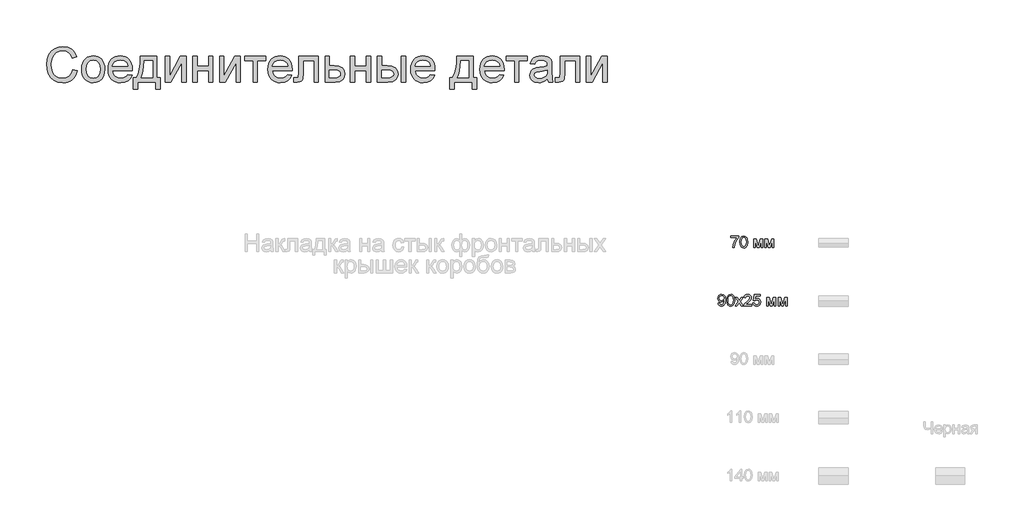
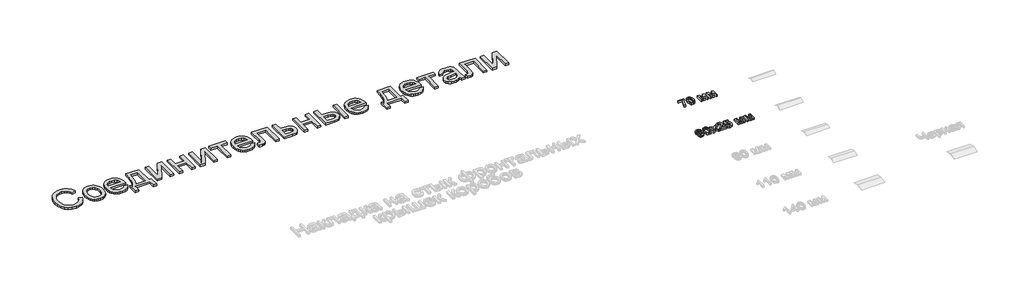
# One storey, part 34 of 48: 3 proxies.
"""IFC4 building model written with IfcOpenShell, lengths in millimetres."""

from ifc_helpers import new_model, si_unit, origin, origin_with_axes, place, context, project, spatial, polyline, outline, extrude, element, save

model = new_model("IFC4")

# Units and contexts
model_context = context("Model", 3, world=origin())
ifc_project = project(units=[si_unit("LENGTHUNIT", "METRE", prefix="MILLI")], contexts=[model_context])

# Site, building, storey
site = spatial("IfcSite", under=ifc_project)
building = spatial("IfcBuilding", under=site)
storey = spatial("IfcBuildingStorey", under=building, Name="Этаж 01", Elevation=0.0)

# Proxies
placement = place(None, origin())
element("IfcBuildingElementProxy", 1, Name="300 мм Arial", ObjectType="300 мм Arial", at=placement, inside=storey, context=model_context, shape_type="SweptSolid", body=[
    extrude(outline(polyline([(6640.9820973, 6004.9853541), (6678.6532136, 5995.2732694), (6671.1990047, 5971.8460841), (6661.2707893, 5951.3757503), (6648.8685676, 5933.8622681), (6633.9923394, 5919.3056374), (6616.9777971, 5907.8622081), (6598.1606331, 5899.68833), (6577.5408472, 5894.7840032), (6555.1184396, 5893.1492275), (6511.4232557, 5898.0972404), (6476.7227865, 5912.9412789), (6450.1249182, 5937.1663083), (6430.7375371, 5970.2572937), (6418.9009339, 6009.1608147), (6414.9553995, 6050.8234507), (6419.4159687, 6094.766955), (6432.7976762, 6132.7139828), (6454.4015464, 6163.4597205), (6483.5286034, 6185.7993547), (6518.0727227, 6199.4017915), (6555.92778, 6203.9359371), (6597.231731, 6198.0682192), (6615.2004672, 6190.733572), (6631.3803772, 6180.4650658), (6645.5047466, 6167.5340136), (6657.3068608, 6152.2117285), (6673.9443241, 6114.3934594), (6636.2732078, 6105.4171388), (6623.2133969, 6132.8887267), (6605.3711202, 6151.7334819), (6582.5256483, 6162.6319861), (6554.456252, 6166.2648208), (6522.1010306, 6162.2365129), (6495.5215564, 6150.1515894), (6475.352426, 6131.279243), (6462.2282358, 6106.8886667), (6455.0269458, 6079.3159112), (6452.6265158, 6050.8970271), (6455.4684042, 6016.0953903), (6463.9940694, 5986.0026431), (6478.5254082, 5961.7684167), (6499.3843174, 5944.5423423), (6524.391096, 5934.2508434), (6551.3660433, 5930.8203438), (6582.8107568, 5935.4924452), (6609.0131519, 5949.5087492), (6628.7960062, 5972.7221031), (6640.9820973, 6004.9853541)])), origin_with_axes(), (0.0, 0.0, 1.0), 20.0),
    extrude(outline(polyline([(6716.3243299, 6008.5170212), (6718.3614765, 6037.1796272), (6724.4729161, 6061.8783046), (6734.6586488, 6082.6130536), (6748.9186747, 6099.383874), (6763.2752695, 6110.1030357), (6779.1217865, 6117.7595797), (6796.4582255, 6122.3535061), (6815.2845866, 6123.8848149), (6836.0676201, 6122.020113), (6854.8594922, 6116.4260075), (6871.6602031, 6107.1024981), (6886.4697527, 6094.0495851), (6898.5569755, 6077.7087267), (6907.1907061, 6058.5213814), (6912.3709444, 6036.4875492), (6914.0976905, 6011.60723), (6911.04427, 5973.5498376), (6901.8840083, 5944.5791305), (6886.8836199, 5922.8832898), (6866.3098193, 5906.6504968), (6841.8732578, 5896.5245448), (6815.2845866, 5893.1492275), (6794.1980505, 5895.0070316), (6775.2314344, 5900.5804438), (6758.3847383, 5909.8694642), (6743.6579622, 5922.8740927), (6731.6994981, 5939.3736002), (6723.157738, 5959.1472575), (6718.0326819, 5982.1950645), (6716.3243299, 6008.5170212)]), holes=[polyline([(6753.9954462, 6008.5905976), (6758.3548479, 5974.4971337), (6771.4330528, 5950.207725), (6791.1147395, 5935.6671891), (6815.2845866, 5930.8203438), (6839.3440691, 5935.6947803), (6858.9889676, 5950.3180896), (6872.0671726, 5974.9293951), (6876.4265742, 6009.76782), (6872.0395814, 6042.8680025), (6858.878603, 6066.8263175), (6839.2061134, 6081.3668533), (6815.2845866, 6086.2136986), (6791.1147395, 6081.3852474), (6771.4330528, 6066.8998939), (6758.3548479, 6042.6656674), (6753.9954462, 6008.5905976)])]), origin_with_axes(), (0.0, 0.0, 1.0), 20.0),
    extrude(outline(polyline([(7111.4295927, 5963.7825706), (7148.3649451, 5959.0736811), (7135.0568139, 5931.2434081), (7113.8208257, 5910.4396813), (7085.1352271, 5897.471841), (7049.4782647, 5893.1492275), (7026.1039625, 5895.0139294), (7005.277243, 5900.608035), (6986.9981064, 5909.9315443), (6971.2665526, 5922.9844573), (6958.6160105, 5939.4034906), (6949.579909, 5958.8253607), (6944.1582481, 5981.2500676), (6942.3510278, 6006.6776112), (6944.1766422, 6032.9673783), (6949.6534854, 6056.1393455), (6958.7815574, 6076.1935128), (6971.5608582, 6093.1298801), (6987.2510253, 6106.5851641), (7005.1116961, 6116.1960812), (7025.1428708, 6121.9626315), (7047.3445492, 6123.8848149), (7068.831157, 6121.96723), (7088.2622241, 6116.2144753), (7105.6377506, 6106.6265508), (7120.9577364, 6093.2034565), (7133.463425, 6076.3038774), (7142.3960597, 6056.2864983), (7147.7556405, 6033.1513193), (7149.5421674, 6006.8983404), (7149.3214382, 5996.7447974), (6980.0221441, 5996.7447974), (6986.5428524, 5968.5466424), (7001.6903936, 5947.816492), (7023.5517811, 5935.0693809), (7050.2140287, 5930.8203438), (7070.2635975, 5932.7885125), (7087.1493811, 5938.6930185), (7100.8713795, 5948.9017439), (7111.4295927, 5963.7825706)]), holes=[polyline([(6980.0221441, 6034.4159137), (7111.8710511, 6034.4159137), (7106.7758855, 6054.3183296), (7096.7878893, 6068.5553628), (7074.8253342, 6081.7991147), (7047.1973964, 6086.2136986), (7021.8043417, 6082.6912285), (7000.8074768, 6072.1238182), (6986.2117586, 6055.6519019), (6980.0221441, 6034.4159137)])]), origin_with_axes(), (0.0, 0.0, 1.0), 20.0),
    extrude(outline(polyline([(7220.1755105, 6119.1759254), (7361.4421967, 6119.1759254), (7361.4421967, 5935.5292334), (7389.6955339, 5935.5292334), (7389.6955339, 5836.6425531), (7352.0244176, 5836.6425531), (7352.0244176, 5897.8581171), (7196.6310628, 5897.8581171), (7196.6310628, 5836.6425531), (7158.9599465, 5836.6425531), (7158.9599465, 5935.5292334), (7182.5043942, 5935.5292334), (7199.620104, 5966.4589121), (7211.60386, 6007.376587), (7218.4556622, 6058.2822581), (7220.1755105, 6119.1759254)]), holes=[polyline([(7253.1377373, 6081.5048091), (7250.0475285, 6035.3816039), (7244.3085694, 5995.6779396), (7235.9208599, 5962.3938161), (7224.8844, 5935.5292334), (7323.7710804, 5935.5292334), (7323.7710804, 6081.5048091), (7253.1377373, 6081.5048091)])]), origin_with_axes(), (0.0, 0.0, 1.0), 20.0),
    extrude(outline(polyline([(7432.0755397, 6119.1759254), (7469.746656, 6119.1759254), (7469.746656, 5950.391666), (7562.305766, 6119.1759254), (7611.0133422, 6119.1759254), (7611.0133422, 5897.8581171), (7573.3422259, 5897.8581171), (7573.3422259, 6065.6123069), (7481.3717271, 5897.8581171), (7432.0755397, 5897.8581171), (7432.0755397, 6119.1759254)])), origin_with_axes(), (0.0, 0.0, 1.0), 20.0),
    extrude(outline(polyline([(7667.5200166, 6119.1759254), (7705.1911329, 6119.1759254), (7705.1911329, 6034.4159137), (7804.0778133, 6034.4159137), (7804.0778133, 6119.1759254), (7841.7489296, 6119.1759254), (7841.7489296, 5897.8581171), (7804.0778133, 5897.8581171), (7804.0778133, 5996.7447974), (7705.1911329, 5996.7447974), (7705.1911329, 5897.8581171), (7667.5200166, 5897.8581171), (7667.5200166, 6119.1759254)])), origin_with_axes(), (0.0, 0.0, 1.0), 20.0),
    extrude(outline(polyline([(7898.255604, 6119.1759254), (7935.9267203, 6119.1759254), (7935.9267203, 5950.391666), (8028.4858303, 6119.1759254), (8077.1934065, 6119.1759254), (8077.1934065, 5897.8581171), (8039.5222902, 5897.8581171), (8039.5222902, 6065.6123069), (7947.5517914, 5897.8581171), (7898.255604, 5897.8581171), (7898.255604, 6119.1759254)])), origin_with_axes(), (0.0, 0.0, 1.0), 20.0),
    extrude(outline(polyline([(8114.8645228, 6119.1759254), (8293.8023252, 6119.1759254), (8293.8023252, 6081.5048091), (8223.1689822, 6081.5048091), (8223.1689822, 5897.8581171), (8185.4978659, 5897.8581171), (8185.4978659, 6081.5048091), (8114.8645228, 6081.5048091), (8114.8645228, 6119.1759254)])), origin_with_axes(), (0.0, 0.0, 1.0), 20.0),
    extrude(outline(polyline([(8481.7164484, 5963.7825706), (8518.6518007, 5959.0736811), (8505.3436695, 5931.2434081), (8484.1076813, 5910.4396813), (8455.4220828, 5897.471841), (8419.7651204, 5893.1492275), (8396.3908181, 5895.0139294), (8375.5640987, 5900.608035), (8357.284962, 5909.9315443), (8341.5534082, 5922.9844573), (8328.9028661, 5939.4034906), (8319.8667646, 5958.8253607), (8314.4451037, 5981.2500676), (8312.6378834, 6006.6776112), (8314.4634978, 6032.9673783), (8319.940341, 6056.1393455), (8329.068413, 6076.1935128), (8341.8477138, 6093.1298801), (8357.5378809, 6106.5851641), (8375.3985518, 6116.1960812), (8395.4297264, 6121.9626315), (8417.6314048, 6123.8848149), (8439.1180126, 6121.96723), (8458.5490797, 6116.2144753), (8475.9246062, 6106.6265508), (8491.244592, 6093.2034565), (8503.7502806, 6076.3038774), (8512.6829153, 6056.2864983), (8518.0424961, 6033.1513193), (8519.8290231, 6006.8983404), (8519.6082939, 5996.7447974), (8350.3089997, 5996.7447974), (8356.8297081, 5968.5466424), (8371.9772492, 5947.816492), (8393.8386368, 5935.0693809), (8420.5008844, 5930.8203438), (8440.5504531, 5932.7885125), (8457.4362367, 5938.6930185), (8471.1582351, 5948.9017439), (8481.7164484, 5963.7825706)]), holes=[polyline([(8350.3089997, 6034.4159137), (8482.1579068, 6034.4159137), (8477.0627411, 6054.3183296), (8467.074745, 6068.5553628), (8445.1121898, 6081.7991147), (8417.484252, 6086.2136986), (8392.0911973, 6082.6912285), (8371.0943324, 6072.1238182), (8356.4986143, 6055.6519019), (8350.3089997, 6034.4159137)])]), origin_with_axes(), (0.0, 0.0, 1.0), 20.0),
    extrude(outline(polyline([(8576.3356975, 6119.1759254), (8745.8557209, 6119.1759254), (8745.8557209, 5898.0788463), (8708.1846046, 5898.0788463), (8708.1846046, 6081.5048091), (8614.0068138, 6081.5048091), (8614.0068138, 5975.9226765), (8611.4684281, 5927.2151003), (8606.7135533, 5916.1878375), (8597.5257005, 5906.6504968), (8583.5829728, 5900.056212), (8564.5634737, 5897.8581171), (8533.9556917, 5899.7711035), (8533.9556917, 5935.5292334), (8550.8046871, 5935.5292334), (8567.8376234, 5937.84689), (8574.6434404, 5945.2045299), (8576.3356975, 5978.056392), (8576.3356975, 6119.1759254)])), origin_with_axes(), (0.0, 0.0, 1.0), 20.0),
    extrude(outline(polyline([(8802.3623954, 6119.1759254), (8840.0335117, 6119.1759254), (8840.0335117, 6039.1248032), (8883.4435871, 6039.1248032), (8921.0779152, 6034.4067166), (8936.2254564, 6028.5091084), (8948.9265822, 6020.2524569), (8958.9697607, 6009.9218706), (8966.1434596, 5997.8024581), (8971.8824187, 5968.1971546), (8966.9987853, 5941.2406014), (8952.3478848, 5918.496297), (8941.1159876, 5909.4670933), (8926.9548301, 5903.0176621), (8889.8447338, 5897.8581171), (8802.3623954, 5897.8581171), (8802.3623954, 6119.1759254)]), holes=[polyline([(8840.0335117, 5935.5292334), (8875.2030304, 5935.5292334), (8902.4906774, 5937.5065991), (8920.6364568, 5943.4386963), (8930.817591, 5953.5646482), (8934.2113024, 5968.1235782), (8931.7005078, 5980.4292309), (8924.168124, 5991.3001439), (8908.0273014, 5998.9153012), (8879.6911908, 6001.4536869), (8840.0335117, 6001.4536869), (8840.0335117, 5935.5292334)])]), origin_with_axes(), (0.0, 0.0, 1.0), 20.0),
    extrude(outline(polyline([(9018.9713141, 6119.1759254), (9056.6424304, 6119.1759254), (9056.6424304, 6034.4159137), (9155.5291107, 6034.4159137), (9155.5291107, 6119.1759254), (9193.200227, 6119.1759254), (9193.200227, 5897.8581171), (9155.5291107, 5897.8581171), (9155.5291107, 5996.7447974), (9056.6424304, 5996.7447974), (9056.6424304, 5897.8581171), (9018.9713141, 5897.8581171), (9018.9713141, 6119.1759254)])), origin_with_axes(), (0.0, 0.0, 1.0), 20.0),
    extrude(outline(polyline([(9456.8980412, 6119.1759254), (9494.5691575, 6119.1759254), (9494.5691575, 5897.8581171), (9456.8980412, 5897.8581171), (9456.8980412, 6119.1759254)])), origin_with_axes(), (0.0, 0.0, 1.0), 20.0),
    extrude(outline(polyline([(9249.7069015, 6119.1759254), (9287.3780178, 6119.1759254), (9287.3780178, 6039.1248032), (9333.9518784, 6039.1248032), (9374.2073657, 6034.4067166), (9390.4240639, 6028.5091084), (9404.0333985, 6020.2524569), (9414.8008446, 6009.9218706), (9422.4918776, 5997.8024581), (9427.1064974, 5983.8942194), (9428.644704, 5968.1971546), (9423.485159, 5941.2406014), (9408.006524, 5918.496297), (9396.1446289, 5909.4670933), (9381.1971236, 5903.0176621), (9342.0452823, 5897.8581171), (9249.7069015, 5897.8581171), (9249.7069015, 6119.1759254)]), holes=[polyline([(9287.3780178, 5935.5292334), (9326.0792037, 5935.5292334), (9356.0799804, 5937.5065991), (9376.0375786, 5943.4386963), (9387.2395854, 5953.5646482), (9390.9735876, 5968.1235782), (9388.2052756, 5980.4292309), (9379.9003396, 5991.3001439), (9362.1408363, 5998.9153012), (9331.0088224, 6001.4536869), (9287.3780178, 6001.4536869), (9287.3780178, 5935.5292334)])]), origin_with_axes(), (0.0, 0.0, 1.0), 20.0),
    extrude(outline(polyline([(9706.0277283, 5963.7825706), (9742.9630806, 5959.0736811), (9729.6549495, 5931.2434081), (9708.4189613, 5910.4396813), (9679.7333627, 5897.471841), (9644.0764003, 5893.1492275), (9620.7020981, 5895.0139294), (9599.8753786, 5900.608035), (9581.596242, 5909.9315443), (9565.8646882, 5922.9844573), (9553.214146, 5939.4034906), (9544.1780445, 5958.8253607), (9538.7563836, 5981.2500676), (9536.9491633, 6006.6776112), (9538.7747777, 6032.9673783), (9544.2516209, 6056.1393455), (9553.3796929, 6076.1935128), (9566.1589938, 6093.1298801), (9581.8491608, 6106.5851641), (9599.7098317, 6116.1960812), (9619.7410063, 6121.9626315), (9641.9426848, 6123.8848149), (9663.4292925, 6121.96723), (9682.8603597, 6116.2144753), (9700.2358862, 6106.6265508), (9715.555872, 6093.2034565), (9728.0615606, 6076.3038774), (9736.9941953, 6056.2864983), (9742.3537761, 6033.1513193), (9744.140303, 6006.8983404), (9743.9195738, 5996.7447974), (9574.6202796, 5996.7447974), (9581.140988, 5968.5466424), (9596.2885292, 5947.816492), (9618.1499167, 5935.0693809), (9644.8121643, 5930.8203438), (9664.8617331, 5932.7885125), (9681.7475166, 5938.6930185), (9695.4695151, 5948.9017439), (9706.0277283, 5963.7825706)]), holes=[polyline([(9574.6202796, 6034.4159137), (9706.4691867, 6034.4159137), (9701.3740211, 6054.3183296), (9691.3860249, 6068.5553628), (9669.4234698, 6081.7991147), (9641.795532, 6086.2136986), (9616.4024772, 6082.6912285), (9595.4056124, 6072.1238182), (9580.8098942, 6055.6519019), (9574.6202796, 6034.4159137)])]), origin_with_axes(), (0.0, 0.0, 1.0), 20.0),
    extrude(outline(polyline([(9932.4958845, 6119.1759254), (10073.7625707, 6119.1759254), (10073.7625707, 5935.5292334), (10102.0159079, 5935.5292334), (10102.0159079, 5836.6425531), (10064.3447916, 5836.6425531), (10064.3447916, 5897.8581171), (9908.9514369, 5897.8581171), (9908.9514369, 5836.6425531), (9871.2803206, 5836.6425531), (9871.2803206, 5935.5292334), (9894.8247682, 5935.5292334), (9911.9404781, 5966.4589121), (9923.9242341, 6007.376587), (9930.7760362, 6058.2822581), (9932.4958845, 6119.1759254)]), holes=[polyline([(9965.4581113, 6081.5048091), (9962.3679026, 6035.3816039), (9956.6289434, 5995.6779396), (9948.2412339, 5962.3938161), (9937.2047741, 5935.5292334), (10036.0914544, 5935.5292334), (10036.0914544, 6081.5048091), (9965.4581113, 6081.5048091)])]), origin_with_axes(), (0.0, 0.0, 1.0), 20.0),
    extrude(outline(polyline([(10299.3478101, 5963.7825706), (10336.2831625, 5959.0736811), (10322.9750313, 5931.2434081), (10301.7390431, 5910.4396813), (10273.0534445, 5897.471841), (10237.3964822, 5893.1492275), (10214.0221799, 5895.0139294), (10193.1954604, 5900.608035), (10174.9163238, 5909.9315443), (10159.18477, 5922.9844573), (10146.5342279, 5939.4034906), (10137.4981264, 5958.8253607), (10132.0764655, 5981.2500676), (10130.2692452, 6006.6776112), (10132.0948596, 6032.9673783), (10137.5717028, 6056.1393455), (10146.6997748, 6076.1935128), (10159.4790756, 6093.1298801), (10175.1692427, 6106.5851641), (10193.0299135, 6116.1960812), (10213.0610882, 6121.9626315), (10235.2627666, 6123.8848149), (10256.7493744, 6121.96723), (10276.1804415, 6116.2144753), (10293.555968, 6106.6265508), (10308.8759538, 6093.2034565), (10321.3816424, 6076.3038774), (10330.3142771, 6056.2864983), (10335.6738579, 6033.1513193), (10337.4603848, 6006.8983404), (10337.2396556, 5996.7447974), (10167.9403615, 5996.7447974), (10174.4610698, 5968.5466424), (10189.608611, 5947.816492), (10211.4699985, 5935.0693809), (10238.1322461, 5930.8203438), (10258.1818149, 5932.7885125), (10275.0675985, 5938.6930185), (10288.7895969, 5948.9017439), (10299.3478101, 5963.7825706)]), holes=[polyline([(10167.9403615, 6034.4159137), (10299.7892685, 6034.4159137), (10294.6941029, 6054.3183296), (10284.7061067, 6068.5553628), (10262.7435516, 6081.7991147), (10235.1156138, 6086.2136986), (10209.7225591, 6082.6912285), (10188.7256942, 6072.1238182), (10174.129976, 6055.6519019), (10167.9403615, 6034.4159137)])]), origin_with_axes(), (0.0, 0.0, 1.0), 20.0),
    extrude(outline(polyline([(10356.295943, 6119.1759254), (10535.2337454, 6119.1759254), (10535.2337454, 6081.5048091), (10464.6004024, 6081.5048091), (10464.6004024, 5897.8581171), (10426.9292861, 5897.8581171), (10426.9292861, 6081.5048091), (10356.295943, 6081.5048091), (10356.295943, 6119.1759254)])), origin_with_axes(), (0.0, 0.0, 1.0), 20.0),
    extrude(outline(polyline([(10709.4626584, 5926.1114543), (10691.4640317, 5910.6788046), (10672.9319762, 5900.5804438), (10653.4434275, 5895.0070316), (10632.5753214, 5893.1492275), (10601.0938196, 5897.6189938), (10577.8712687, 5911.0282925), (10563.551462, 5931.3905609), (10558.7781931, 5956.7192363), (10560.5808149, 5972.335827), (10565.9886802, 5986.5176779), (10574.3304045, 5998.6577838), (10584.934603, 6008.1491392), (10611.311742, 6020.5099743), (10643.9060868, 6026.175357), (10682.4233317, 6032.1350453), (10709.2419292, 6039.1248032), (10709.4626584, 6047.5125127), (10706.8690903, 6064.3247199), (10699.0883861, 6075.3243915), (10681.6875677, 6083.4913718), (10657.4441442, 6086.2136986), (10635.0033425, 6084.4018798), (10619.3315695, 6078.9664233), (10608.6445976, 6068.9140478), (10601.158199, 6053.2514718), (10563.4870827, 6057.9603614), (10570.0261851, 6078.5617531), (10579.7842551, 6094.7485609), (10593.6718004, 6107.12779), (10612.599329, 6116.3064458), (10635.7483036, 6121.9902226), (10662.3001866, 6123.8848149), (10687.7668177, 6122.2109518), (10707.9543422, 6117.1893626), (10723.1754597, 6109.6385846), (10733.74287, 6100.3771554), (10740.7510221, 6088.9268283), (10745.2943647, 6074.8093568), (10747.1337747, 6041.84713), (10747.1337747, 5994.9789638), (10749.046761, 5929.5327569), (10756.5515537, 5897.8581171), (10718.8804374, 5897.8581171), (10709.4626584, 5926.1114543)]), holes=[polyline([(10709.4626584, 6001.4536869), (10648.6885528, 5989.9021923), (10616.278149, 5983.7953511), (10601.5996574, 5973.8625373), (10596.4493094, 5959.3679867), (10599.2544097, 5948.1659799), (10607.6697103, 5938.9873241), (10621.5112704, 5932.8620889), (10640.5951489, 5930.8203438), (10660.8286586, 5933.0736211), (10678.7077236, 5939.8334527), (10693.2022742, 5949.7938577), (10703.2822408, 5961.648855), (10707.7520071, 5973.8625373), (10709.2419292, 5990.7851091), (10709.4626584, 6001.4536869)])]), origin_with_axes(), (0.0, 0.0, 1.0), 20.0),
    extrude(outline(polyline([(10817.7671177, 6119.1759254), (10987.2871411, 6119.1759254), (10987.2871411, 5898.0788463), (10949.6160248, 5898.0788463), (10949.6160248, 6081.5048091), (10855.438234, 6081.5048091), (10855.438234, 5975.9226765), (10852.8998483, 5927.2151003), (10848.1449735, 5916.1878375), (10838.9571207, 5906.6504968), (10825.014393, 5900.056212), (10805.9948939, 5897.8581171), (10775.3871119, 5899.7711035), (10775.3871119, 5935.5292334), (10792.2361073, 5935.5292334), (10809.2690437, 5937.84689), (10816.0748606, 5945.2045299), (10817.7671177, 5978.056392), (10817.7671177, 6119.1759254)])), origin_with_axes(), (0.0, 0.0, 1.0), 20.0),
    extrude(outline(polyline([(11043.7938156, 6119.1759254), (11081.4649319, 6119.1759254), (11081.4649319, 5950.391666), (11174.0240419, 6119.1759254), (11222.731618, 6119.1759254), (11222.731618, 5897.8581171), (11185.0605017, 5897.8581171), (11185.0605017, 6065.6123069), (11093.0900029, 5897.8581171), (11043.7938156, 5897.8581171), (11043.7938156, 6119.1759254)])), origin_with_axes(), (0.0, 0.0, 1.0), 20.0),
])
element("IfcBuildingElementProxy", 2, Name="100 мм Arial", ObjectType="100 мм Arial", at=placement, inside=storey, context=model_context, shape_type="SweptSolid", body=[
    extrude(outline(polyline([(12282.0597089, 4563.2922186), (12282.0597089, 4575.8492573), (12347.9841625, 4575.8492573), (12347.9841625, 4565.6957143), (12329.2834944, 4538.6809131), (12314.9728848, 4504.2594211), (12310.3130462, 4476.962577), (12297.7560074, 4476.962577), (12302.7469398, 4505.2894907), (12316.4444127, 4537.307487), (12335.4271237, 4563.2922186), (12282.0597089, 4563.2922186)])), origin_with_axes(), (0.0, 0.0, 1.0), 20.0),
    extrude(outline(polyline([(12358.9715714, 4526.3813917), (12362.6626541, 4555.2846538), (12373.6255375, 4571.9497082), (12391.9337982, 4577.4188872), (12406.600027, 4574.1815256), (12416.7290446, 4564.8495857), (12422.6151566, 4549.9871531), (12424.8960249, 4526.3813917), (12421.2417304, 4497.600757), (12410.3156352, 4480.8989144), (12402.0842755, 4476.769439), (12391.9337982, 4475.3929472), (12378.8862501, 4477.7841802), (12368.9779617, 4484.9578791), (12361.473169, 4501.9478959), (12358.9715714, 4526.3813917)]), holes=[polyline([(12371.5286102, 4526.4059172), (12373.0001381, 4506.6537197), (12377.4147221, 4495.2217867), (12383.9875471, 4489.7679362), (12391.9337982, 4487.949986), (12399.8800493, 4489.7740675), (12406.4528742, 4495.2463122), (12410.8674582, 4506.6843766), (12412.3389862, 4526.4059172), (12410.9165091, 4545.7135906), (12406.649078, 4557.2344284), (12400.0885157, 4562.9549934), (12391.7866454, 4564.8618484), (12383.9262334, 4563.181854), (12377.6109258, 4558.1418706), (12373.0491891, 4545.9036629), (12371.5286102, 4526.4059172)])]), origin_with_axes(), (0.0, 0.0, 1.0), 20.0),
    extrude(outline(polyline([(12478.2634397, 4550.7351798), (12499.8703755, 4550.7351798), (12516.5231672, 4491.6778568), (12534.4758086, 4550.7351798), (12555.1753022, 4550.7351798), (12555.1753022, 4476.962577), (12542.6182634, 4476.962577), (12542.6182634, 4536.3632565), (12524.5675202, 4476.962577), (12508.0864068, 4476.962577), (12490.8204785, 4539.2082106), (12490.8204785, 4476.962577), (12478.2634397, 4476.962577), (12478.2634397, 4550.7351798)])), origin_with_axes(), (0.0, 0.0, 1.0), 20.0),
    extrude(outline(polyline([(12574.0108603, 4550.7351798), (12595.6177962, 4550.7351798), (12612.2705878, 4491.6778568), (12630.2232292, 4550.7351798), (12650.9227228, 4550.7351798), (12650.9227228, 4476.962577), (12638.365684, 4476.962577), (12638.365684, 4536.3632565), (12620.3149408, 4476.962577), (12603.8338274, 4476.962577), (12586.5678991, 4539.2082106), (12586.5678991, 4476.962577), (12574.0108603, 4476.962577), (12574.0108603, 4550.7351798)])), origin_with_axes(), (0.0, 0.0, 1.0), 20.0),
])
element("IfcBuildingElementProxy", 3, Name="100 мм Arial", ObjectType="100 мм Arial", at=placement, inside=storey, context=model_context, shape_type="SweptSolid", body=[
    extrude(outline(polyline([(12171.4008048, 4002.0766546), (12183.9578436, 4003.6462844), (12189.5987008, 3991.6655941), (12200.2918041, 3987.949986), (12210.4576099, 3990.3412189), (12217.349266, 3996.7301029), (12221.4572816, 4007.6439354), (12223.2721661, 4022.2120624), (12223.1985897, 4024.6646091), (12213.1554112, 4015.1487281), (12199.3843619, 4011.4944337), (12187.9340348, 4013.7262511), (12178.4028254, 4020.4217034), (12171.9740876, 4030.7653188), (12169.8311749, 4043.9416256), (12172.0783208, 4057.5532594), (12178.8197584, 4068.2218373), (12188.9457103, 4075.1196247), (12201.3463992, 4077.4188872), (12219.2377269, 4072.1704374), (12231.549511, 4057.2099029), (12235.7556285, 4029.1037185), (12231.5617737, 3998.6063011), (12226.3470464, 3988.6152392), (12219.0905741, 3981.32811), (12210.1050564, 3976.8767379), (12199.7031929, 3975.3929472), (12188.9671701, 3977.1434524), (12180.4016509, 3982.3949678), (12174.4113058, 3990.8163998), (12171.4008048, 4002.0766546)]), holes=[polyline([(12223.1985897, 4044.2359312), (12221.8435577, 4052.746268), (12217.7784616, 4059.2945676), (12211.4692854, 4063.4700282), (12203.3820129, 4064.8618484), (12194.9943034, 4063.3627293), (12188.2743256, 4058.8653719), (12183.8597417, 4051.9829129), (12182.3882137, 4043.328489), (12183.7800339, 4035.5692446), (12187.9554946, 4029.4102868), (12194.5099254, 4025.391176), (12203.0386564, 4024.0514724), (12217.5209442, 4029.4102868), (12221.7791783, 4035.7961051), (12223.1985897, 4044.2359312)])]), origin_with_axes(), (0.0, 0.0, 1.0), 20.0),
    extrude(outline(polyline([(12246.7430374, 4026.3813917), (12250.4341201, 4055.2846538), (12261.3970035, 4071.9497082), (12279.7052642, 4077.4188872), (12294.371493, 4074.1815256), (12304.5005106, 4064.8495857), (12310.3866226, 4049.9871531), (12312.6674909, 4026.3813917), (12309.0131964, 3997.600757), (12298.0871012, 3980.8989144), (12289.8557415, 3976.769439), (12279.7052642, 3975.3929472), (12266.6577161, 3977.7841802), (12256.7494277, 3984.9578791), (12249.244635, 4001.9478959), (12246.7430374, 4026.3813917)]), holes=[polyline([(12259.3000762, 4026.4059172), (12260.7716041, 4006.6537197), (12265.1861881, 3995.2217867), (12271.7590131, 3989.7679362), (12279.7052642, 3987.949986), (12287.6515153, 3989.7740675), (12294.2243402, 3995.2463122), (12298.6389242, 4006.6843766), (12300.1104522, 4026.4059172), (12298.6879751, 4045.7135906), (12294.420544, 4057.2344284), (12287.8599817, 4062.9549934), (12279.5581114, 4064.8618484), (12271.6976994, 4063.181854), (12265.3823918, 4058.1418706), (12260.8206551, 4045.9036629), (12259.3000762, 4026.4059172)])]), origin_with_axes(), (0.0, 0.0, 1.0), 20.0),
    extrude(outline(polyline([(12318.9460103, 3976.962577), (12345.7768705, 4014.0450822), (12320.5156402, 4050.7351798), (12335.6233274, 4050.7351798), (12347.8124842, 4033.076844), (12353.5023924, 4024.7381855), (12358.4320111, 4031.5562651), (12372.3134251, 4050.7351798), (12387.4211124, 4050.7351798), (12360.8845578, 4014.0450822), (12386.4400937, 3976.962577), (12371.3324064, 3976.962577), (12355.954939, 3999.2562259), (12353.1345104, 4003.3274534), (12334.0536976, 3976.962577), (12318.9460103, 3976.962577)])), origin_with_axes(), (0.0, 0.0, 1.0), 20.0),
    extrude(outline(polyline([(12458.6430666, 3989.5196158), (12458.6430666, 3976.962577), (12392.7186131, 3976.962577), (12394.0675137, 3985.6200667), (12401.6949338, 3998.9496576), (12417.4157577, 4013.5055219), (12439.0962699, 4034.4257447), (12444.516398, 4048.6505152), (12439.4028383, 4060.1652216), (12426.0487218, 4064.8618484), (12412.1305197, 4060.2755862), (12406.8452817, 4047.5959201), (12394.2882429, 4049.16555), (12397.3324664, 4061.3117872), (12403.9144885, 4070.1838746), (12413.6909525, 4075.610134), (12426.318502, 4077.4188872), (12439.038022, 4075.4077989), (12448.7960919, 4069.3745342), (12455.0041005, 4060.3614253), (12457.0734368, 4049.4108046), (12454.8416193, 4037.5036907), (12447.4226658, 4025.1919066), (12429.4332362, 4007.987292), (12414.9877365, 3995.9084998), (12409.3223538, 3989.5196158), (12458.6430666, 3989.5196158)])), origin_with_axes(), (0.0, 0.0, 1.0), 20.0),
    extrude(outline(polyline([(12471.2001054, 4003.6462844), (12483.7571442, 4005.2159143), (12490.0847145, 3992.2787308), (12503.205839, 3987.949986), (12512.2066851, 3989.4552365), (12518.9511884, 3993.970988), (12523.1634372, 4000.9760743), (12524.5675202, 4009.9493293), (12519.3068076, 4024.8608128), (12512.7002601, 4028.9626971), (12503.4020427, 4030.3299918), (12492.3778456, 4028.1472253), (12485.326774, 4022.4818426), (12472.7697352, 4024.0514724), (12483.7571442, 4075.8492573), (12532.4156694, 4075.8492573), (12532.4156694, 4063.2922186), (12493.9106872, 4063.2922186), (12488.5396101, 4035.6274925), (12497.5097994, 4041.0721461), (12506.9091844, 4042.8870306), (12518.6415543, 4040.636819), (12528.3812302, 4033.8861844), (12534.9387267, 4023.5977513), (12537.1245589, 4010.7341442), (12535.1563902, 3998.1771054), (12529.2518842, 3987.4349512), (12517.9456442, 3978.4034482), (12503.156788, 3975.3929472), (12490.8235441, 3977.3273934), (12480.9980292, 3983.1307318), (12474.262723, 3992.1285123), (12471.2001054, 4003.6462844)])), origin_with_axes(), (0.0, 0.0, 1.0), 20.0),
    extrude(outline(polyline([(12590.4919737, 4050.7351798), (12612.0989095, 4050.7351798), (12628.7517012, 3991.6778568), (12646.7043426, 4050.7351798), (12667.4038361, 4050.7351798), (12667.4038361, 3976.962577), (12654.8467974, 3976.962577), (12654.8467974, 4036.3632565), (12636.7960541, 3976.962577), (12620.3149408, 3976.962577), (12603.0490125, 4039.2082106), (12603.0490125, 3976.962577), (12590.4919737, 3976.962577), (12590.4919737, 4050.7351798)])), origin_with_axes(), (0.0, 0.0, 1.0), 20.0),
    extrude(outline(polyline([(12686.2393943, 4050.7351798), (12707.8463301, 4050.7351798), (12724.4991218, 3991.6778568), (12742.4517632, 4050.7351798), (12763.1512568, 4050.7351798), (12763.1512568, 3976.962577), (12750.594218, 3976.962577), (12750.594218, 4036.3632565), (12732.5434748, 3976.962577), (12716.0623614, 3976.962577), (12698.7964331, 4039.2082106), (12698.7964331, 3976.962577), (12686.2393943, 3976.962577), (12686.2393943, 4050.7351798)])), origin_with_axes(), (0.0, 0.0, 1.0), 20.0),
])

save(model, "model.ifc")
